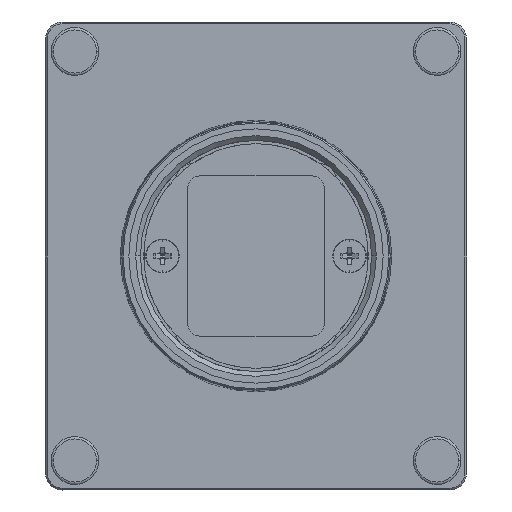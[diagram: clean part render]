
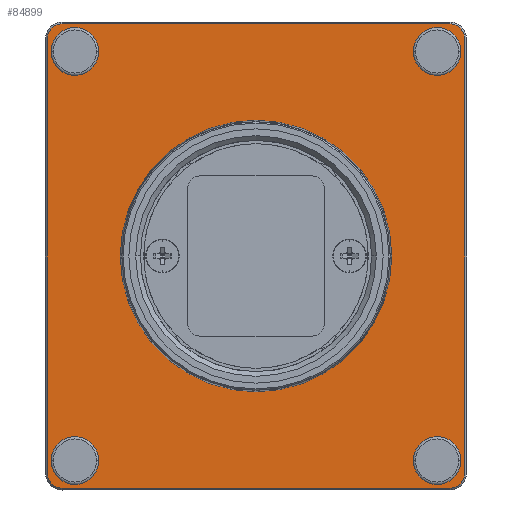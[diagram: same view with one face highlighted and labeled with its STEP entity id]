
A CAD part, left-side view. The second image highlights one B-rep face of the part: STEP entity #84899.
In plain terms, the highlighted planar face has unit normal (-1, 0, 0).
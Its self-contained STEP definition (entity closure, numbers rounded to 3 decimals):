
#15792=CARTESIAN_POINT('',(-9.,20.7,
23.2));
#15793=DIRECTION('',(1.,0.,0.));
#15794=DIRECTION('',(0.,1.,0.));
#15795=AXIS2_PLACEMENT_3D('',#15792,#15793,#15794);
#15797=DIRECTION('',(0.,-1.,0.));
#15798=VECTOR('',#15797,41.4);
#15799=CARTESIAN_POINT('',(-9.,20.7,
24.8));
#15800=LINE('',#15799,#15798);
#15801=CARTESIAN_POINT('',(-9.,-20.7,
23.2));
#15802=DIRECTION('',(1.,0.,0.));
#15803=DIRECTION('',(0.,0.,1.));
#15804=AXIS2_PLACEMENT_3D('',#15801,#15802,#15803);
#15806=DIRECTION('',(0.,0.,-1.));
#15807=VECTOR('',#15806,46.4);
#15808=CARTESIAN_POINT('',(-9.,-22.3,
23.2));
#15809=LINE('',#15808,#15807);
#15810=CARTESIAN_POINT('',(-9.,-20.7,
-23.2));
#15811=DIRECTION('',(1.,0.,0.));
#15812=DIRECTION('',(0.,-1.,0.));
#15813=AXIS2_PLACEMENT_3D('',#15810,#15811,#15812);
#15815=DIRECTION('',(0.,1.,0.));
#15816=VECTOR('',#15815,41.4);
#15817=CARTESIAN_POINT('',(-9.,-20.7,
-24.8));
#15818=LINE('',#15817,#15816);
#15819=CARTESIAN_POINT('',(-9.,20.7,
-23.2));
#15820=DIRECTION('',(1.,0.,0.));
#15821=DIRECTION('',(0.,0.,-1.));
#15822=AXIS2_PLACEMENT_3D('',#15819,#15820,#15821);
#15824=DIRECTION('',(0.,0.,1.));
#15825=VECTOR('',#15824,46.4);
#15826=CARTESIAN_POINT('',(-9.,22.3,
-23.2));
#15827=LINE('',#15826,#15825);
#15828=CARTESIAN_POINT('',(-9.,19.351,
-21.851));
#15829=DIRECTION('',(-1.,0.,0.));
#15830=DIRECTION('',(0.,0.,1.));
#15831=AXIS2_PLACEMENT_3D('',#15828,#15829,#15830);
#15833=CARTESIAN_POINT('',(-9.,19.351,
-21.851));
#15834=DIRECTION('',(-1.,0.,0.));
#15835=DIRECTION('',(0.,0.,-1.));
#15836=AXIS2_PLACEMENT_3D('',#15833,#15834,#15835);
#15838=CARTESIAN_POINT('',(-9.,19.351,
21.851));
#15839=DIRECTION('',(-1.,0.,0.));
#15840=DIRECTION('',(0.,0.,1.));
#15841=AXIS2_PLACEMENT_3D('',#15838,#15839,#15840);
#15843=CARTESIAN_POINT('',(-9.,19.351,
21.851));
#15844=DIRECTION('',(-1.,0.,0.));
#15845=DIRECTION('',(0.,0.,-1.));
#15846=AXIS2_PLACEMENT_3D('',#15843,#15844,#15845);
#15848=CARTESIAN_POINT('',(-9.,-19.351,
21.851));
#15849=DIRECTION('',(-1.,0.,0.));
#15850=DIRECTION('',(0.,0.,1.));
#15851=AXIS2_PLACEMENT_3D('',#15848,#15849,#15850);
#15853=CARTESIAN_POINT('',(-9.,-19.351,
21.851));
#15854=DIRECTION('',(-1.,0.,0.));
#15855=DIRECTION('',(0.,0.,-1.));
#15856=AXIS2_PLACEMENT_3D('',#15853,#15854,#15855);
#15858=CARTESIAN_POINT('',(-9.,-19.351,
-21.851));
#15859=DIRECTION('',(-1.,0.,0.));
#15860=DIRECTION('',(0.,0.,1.));
#15861=AXIS2_PLACEMENT_3D('',#15858,#15859,#15860);
#15863=CARTESIAN_POINT('',(-9.,-19.351,
-21.851));
#15864=DIRECTION('',(-1.,0.,0.));
#15865=DIRECTION('',(0.,0.,-1.));
#15866=AXIS2_PLACEMENT_3D('',#15863,#15864,#15865);
#15868=CARTESIAN_POINT('',(-9.,0.,
0.));
#15869=DIRECTION('',(-1.,0.,0.));
#15870=DIRECTION('',(0.,1.,0.));
#15871=AXIS2_PLACEMENT_3D('',#15868,#15869,#15870);
#15873=CARTESIAN_POINT('',(-9.,0.,
0.));
#15874=DIRECTION('',(-1.,0.,0.));
#15875=DIRECTION('',(0.,-1.,0.));
#15876=AXIS2_PLACEMENT_3D('',#15873,#15874,#15875);
#64302=CARTESIAN_POINT('',(-9.,-22.3,
23.2));
#64303=VERTEX_POINT('',#64302);
#64304=CARTESIAN_POINT('',(-9.,-20.7,
24.8));
#64305=VERTEX_POINT('',#64304);
#64306=CARTESIAN_POINT('',(-9.,-22.3,
-23.2));
#64307=VERTEX_POINT('',#64306);
#64312=CARTESIAN_POINT('',(-9.,-20.7,
-24.8));
#64313=VERTEX_POINT('',#64312);
#64314=CARTESIAN_POINT('',(-9.,20.7,
-24.8));
#64315=VERTEX_POINT('',#64314);
#64328=CARTESIAN_POINT('',(-9.,22.3,
-23.2));
#64329=VERTEX_POINT('',#64328);
#64330=CARTESIAN_POINT('',(-9.,22.3,
23.2));
#64331=VERTEX_POINT('',#64330);
#64344=CARTESIAN_POINT('',(-9.,20.7,
24.8));
#64345=VERTEX_POINT('',#64344);
#64374=CARTESIAN_POINT('',(-9.,19.351,
-19.301));
#64375=CARTESIAN_POINT('',(-9.,19.351,
-24.401));
#64376=VERTEX_POINT('',#64374);
#64377=VERTEX_POINT('',#64375);
#64378=CARTESIAN_POINT('',(-9.,19.351,
24.401));
#64379=CARTESIAN_POINT('',(-9.,19.351,
19.301));
#64380=VERTEX_POINT('',#64378);
#64381=VERTEX_POINT('',#64379);
#64382=CARTESIAN_POINT('',(-9.,-19.351,
24.401));
#64383=CARTESIAN_POINT('',(-9.,-19.351,
19.301));
#64384=VERTEX_POINT('',#64382);
#64385=VERTEX_POINT('',#64383);
#64386=CARTESIAN_POINT('',(-9.,-19.351,
-19.301));
#64387=CARTESIAN_POINT('',(-9.,-19.351,
-24.401));
#64388=VERTEX_POINT('',#64386);
#64389=VERTEX_POINT('',#64387);
#64390=CARTESIAN_POINT('',(-9.,14.5,
0.));
#64391=CARTESIAN_POINT('',(-9.,-14.5,
0.));
#64392=VERTEX_POINT('',#64390);
#64393=VERTEX_POINT('',#64391);
#84854=CARTESIAN_POINT('',(-9.,0.,0.));
#84855=DIRECTION('',(1.,0.,0.));
#84856=DIRECTION('',(0.,1.,0.));
#84857=AXIS2_PLACEMENT_3D('',#84854,#84855,#84856);
#84858=PLANE('',#84857);
#84859=ORIENTED_EDGE('',*,*,#84650,.T.);
#84860=ORIENTED_EDGE('',*,*,#84664,.T.);
#84861=ORIENTED_EDGE('',*,*,#84445,.T.);
#84862=ORIENTED_EDGE('',*,*,#84461,.T.);
#84863=ORIENTED_EDGE('',*,*,#84514,.T.);
#84864=ORIENTED_EDGE('',*,*,#84529,.T.);
#84865=ORIENTED_EDGE('',*,*,#84582,.T.);
#84866=ORIENTED_EDGE('',*,*,#84597,.T.);
#84867=EDGE_LOOP('',(#84859,#84860,#84861,#84862,#84863,#84864,#84865,#84866));
#84868=FACE_OUTER_BOUND('',#84867,.F.);
#84870=ORIENTED_EDGE('',*,*,#84869,.T.);
#84872=ORIENTED_EDGE('',*,*,#84871,.T.);
#84873=EDGE_LOOP('',(#84870,#84872));
#84874=FACE_BOUND('',#84873,.F.);
#84876=ORIENTED_EDGE('',*,*,#84875,.T.);
#84878=ORIENTED_EDGE('',*,*,#84877,.T.);
#84879=EDGE_LOOP('',(#84876,#84878));
#84880=FACE_BOUND('',#84879,.F.);
#84882=ORIENTED_EDGE('',*,*,#84881,.T.);
#84884=ORIENTED_EDGE('',*,*,#84883,.T.);
#84885=EDGE_LOOP('',(#84882,#84884));
#84886=FACE_BOUND('',#84885,.F.);
#84888=ORIENTED_EDGE('',*,*,#84887,.T.);
#84890=ORIENTED_EDGE('',*,*,#84889,.T.);
#84891=EDGE_LOOP('',(#84888,#84890));
#84892=FACE_BOUND('',#84891,.F.);
#84894=ORIENTED_EDGE('',*,*,#84893,.T.);
#84896=ORIENTED_EDGE('',*,*,#84895,.T.);
#84897=EDGE_LOOP('',(#84894,#84896));
#84898=FACE_BOUND('',#84897,.F.);
#84899=ADVANCED_FACE('',(#84868,#84874,#84880,#84886,#84892,#84898),#84858,.F.);
#15796=CIRCLE('',#15795,1.6);
#15805=CIRCLE('',#15804,1.6);
#15814=CIRCLE('',#15813,1.6);
#15823=CIRCLE('',#15822,1.6);
#15832=CIRCLE('',#15831,2.55);
#15837=CIRCLE('',#15836,2.55);
#15842=CIRCLE('',#15841,2.55);
#15847=CIRCLE('',#15846,2.55);
#15852=CIRCLE('',#15851,2.55);
#15857=CIRCLE('',#15856,2.55);
#15862=CIRCLE('',#15861,2.55);
#15867=CIRCLE('',#15866,2.55);
#15872=CIRCLE('',#15871,14.5);
#15877=CIRCLE('',#15876,14.5);
#84445=EDGE_CURVE('',#64305,#64303,#15805,.T.);
#84461=EDGE_CURVE('',#64303,#64307,#15809,.T.);
#84514=EDGE_CURVE('',#64307,#64313,#15814,.T.);
#84529=EDGE_CURVE('',#64313,#64315,#15818,.T.);
#84582=EDGE_CURVE('',#64315,#64329,#15823,.T.);
#84597=EDGE_CURVE('',#64329,#64331,#15827,.T.);
#84650=EDGE_CURVE('',#64331,#64345,#15796,.T.);
#84664=EDGE_CURVE('',#64345,#64305,#15800,.T.);
#84869=EDGE_CURVE('',#64376,#64377,#15832,.T.);
#84871=EDGE_CURVE('',#64377,#64376,#15837,.T.);
#84875=EDGE_CURVE('',#64380,#64381,#15842,.T.);
#84877=EDGE_CURVE('',#64381,#64380,#15847,.T.);
#84881=EDGE_CURVE('',#64384,#64385,#15852,.T.);
#84883=EDGE_CURVE('',#64385,#64384,#15857,.T.);
#84887=EDGE_CURVE('',#64388,#64389,#15862,.T.);
#84889=EDGE_CURVE('',#64389,#64388,#15867,.T.);
#84893=EDGE_CURVE('',#64392,#64393,#15872,.T.);
#84895=EDGE_CURVE('',#64393,#64392,#15877,.T.);
